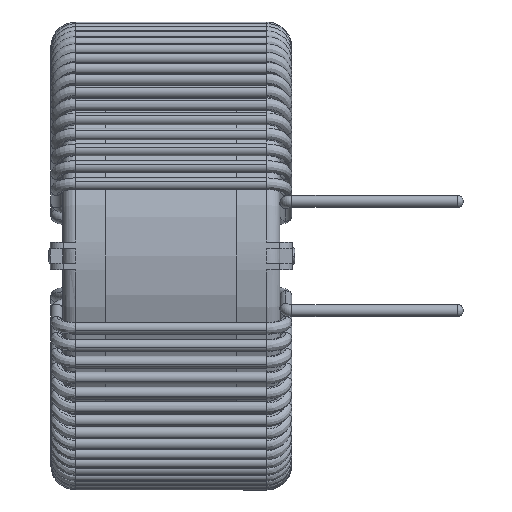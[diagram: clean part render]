
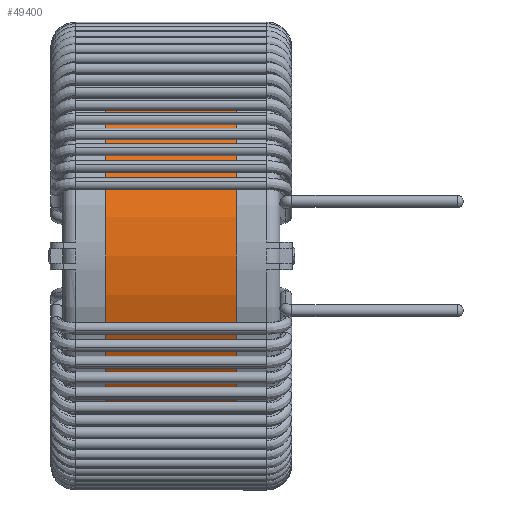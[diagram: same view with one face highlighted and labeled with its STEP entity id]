
A CAD part, left-side view. The second image highlights one B-rep face of the part: STEP entity #49400.
In plain terms, the highlighted cylindrical face has radius 17.1 mm (diameter 34.2 mm), a partial arc.
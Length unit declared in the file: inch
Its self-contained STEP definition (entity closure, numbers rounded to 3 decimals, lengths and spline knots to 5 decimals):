
#100 = ORIENTED_EDGE ( 'NONE', *, *, #39206, .F. ) ;
#370 = DIRECTION ( 'NONE',  ( 0., 0., 1. ) ) ;
#6209 = EDGE_CURVE ( 'NONE', #40120, #7642, #32045, .T. ) ;
#6949 = DIRECTION ( 'NONE',  ( 0., -1., 0. ) ) ;
#7642 = VERTEX_POINT ( 'NONE', #51166 ) ;
#11871 = DIRECTION ( 'NONE',  ( 0., 1., 0. ) ) ;
#15506 = DIRECTION ( 'NONE',  ( 0., 0., -1. ) ) ;
#19539 = VECTOR ( 'NONE', #6949, 39.37008 ) ;
#22080 = CARTESIAN_POINT ( 'NONE',  ( 0., -0.19685, 0.67323 ) ) ;
#22390 = VERTEX_POINT ( 'NONE', #35274 ) ;
#22422 = DIRECTION ( 'NONE',  ( 0., 0., 1. ) ) ;
#23610 = CARTESIAN_POINT ( 'NONE',  ( 0., 0.19685, 0.67323 ) ) ;
#25196 = ORIENTED_EDGE ( 'NONE', *, *, #59121, .T. ) ;
#27746 = EDGE_LOOP ( 'NONE', ( #100, #48799, #31734, #25196 ) ) ;
#28252 = CYLINDRICAL_SURFACE ( 'NONE', #49375, 0.67323 ) ;
#31734 = ORIENTED_EDGE ( 'NONE', *, *, #6209, .T. ) ;
#32045 = LINE ( 'NONE', #37778, #19539 ) ;
#33588 = CARTESIAN_POINT ( 'NONE',  ( 0., -0.19685, 0. ) ) ;
#35173 = VECTOR ( 'NONE', #50995, 39.37008 ) ;
#35274 = CARTESIAN_POINT ( 'NONE',  ( 0., 0.19685, 0.67323 ) ) ;
#37778 = CARTESIAN_POINT ( 'NONE',  ( 0., 0.19685, -0.67323 ) ) ;
#39206 = EDGE_CURVE ( 'NONE', #22390, #62443, #54383, .T. ) ;
#40100 = FACE_OUTER_BOUND ( 'NONE', #27746, .T. ) ;
#40120 = VERTEX_POINT ( 'NONE', #65504 ) ;
#42220 = EDGE_CURVE ( 'NONE', #40120, #22390, #55538, .T. ) ;
#46349 = DIRECTION ( 'NONE',  ( 0., -1., 0. ) ) ;
#48799 = ORIENTED_EDGE ( 'NONE', *, *, #42220, .F. ) ;
#49375 = AXIS2_PLACEMENT_3D ( 'NONE', #68217, #46349, #15506 ) ;
#49400 = ADVANCED_FACE ( 'NONE', ( #40100 ), #28252, .T. ) ;
#50543 = CARTESIAN_POINT ( 'NONE',  ( 0., 0.19685, 0. ) ) ;
#50995 = DIRECTION ( 'NONE',  ( 0., -1., 0. ) ) ;
#51166 = CARTESIAN_POINT ( 'NONE',  ( 0., -0.19685, -0.67323 ) ) ;
#54383 = LINE ( 'NONE', #23610, #35173 ) ;
#55046 = DIRECTION ( 'NONE',  ( 0., 1., 0. ) ) ;
#55538 = CIRCLE ( 'NONE', #57705, 0.67323 ) ;
#57608 = CIRCLE ( 'NONE', #70365, 0.67323 ) ;
#57705 = AXIS2_PLACEMENT_3D ( 'NONE', #50543, #55046, #370 ) ;
#59121 = EDGE_CURVE ( 'NONE', #7642, #62443, #57608, .T. ) ;
#62443 = VERTEX_POINT ( 'NONE', #22080 ) ;
#65504 = CARTESIAN_POINT ( 'NONE',  ( 0., 0.19685, -0.67323 ) ) ;
#68217 = CARTESIAN_POINT ( 'NONE',  ( 0., 0.19685, 0. ) ) ;
#70365 = AXIS2_PLACEMENT_3D ( 'NONE', #33588, #11871, #22422 ) ;
